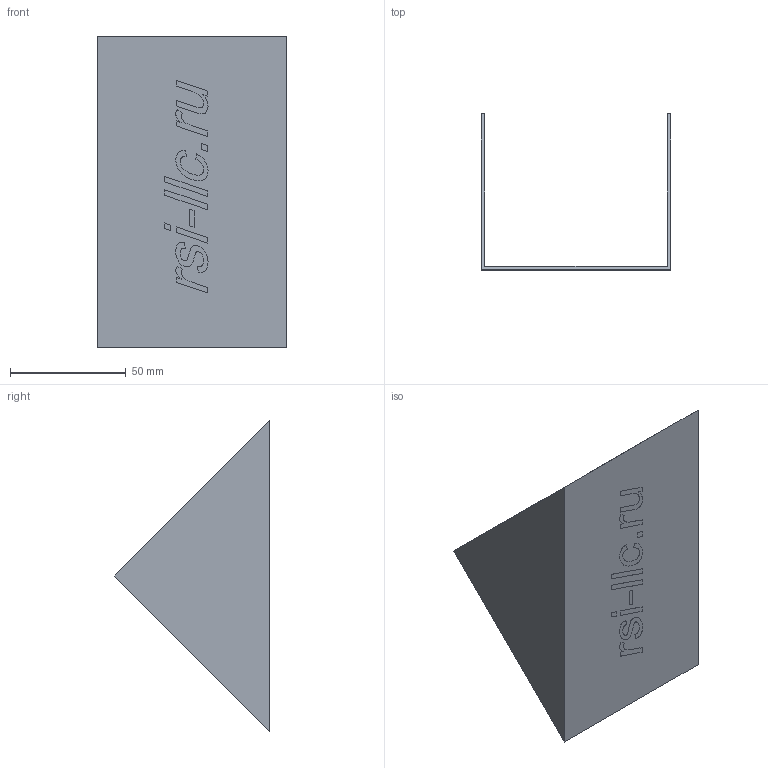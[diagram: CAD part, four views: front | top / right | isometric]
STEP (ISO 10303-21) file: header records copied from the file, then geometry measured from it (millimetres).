
FILE_DESCRIPTION (( 'STEP AP214' ), '1' );
FILE_NAME ('4111.STEP', '2022-07-05T05:33:33', ( 'Home' ), ( '' ), 'SwSTEP 2.0', 'SolidWorks 2020', '' );
FILE_SCHEMA (( 'AUTOMOTIVE_DESIGN' ));
Length unit declared in the file: millimetre
Products named in the file (1): 4111
Bounding box: 82 x 67.51 x 135 mm (x, y, z)
Volume: 29497.6 mm3; surface area: 41147.9 mm2
Topology: 12 solids, 12 shells, 113 faces, 267 edges, 178 vertices
Faces by surface type: plane 81, bspline 32
Entity records: 6245 total; most frequent: CARTESIAN_POINT 2559, ORIENTED_EDGE 534, DIRECTION 367, EDGE_CURVE 267, VECTOR 203, LINE 203, VERTEX_POINT 178, UNCERTAINTY_MEASURE_WITH_UNIT 119
